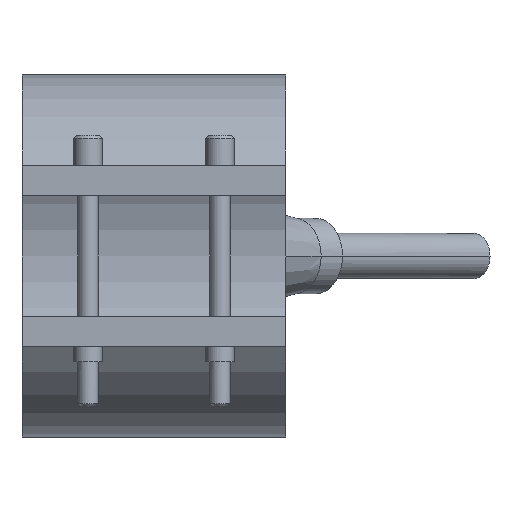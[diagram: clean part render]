
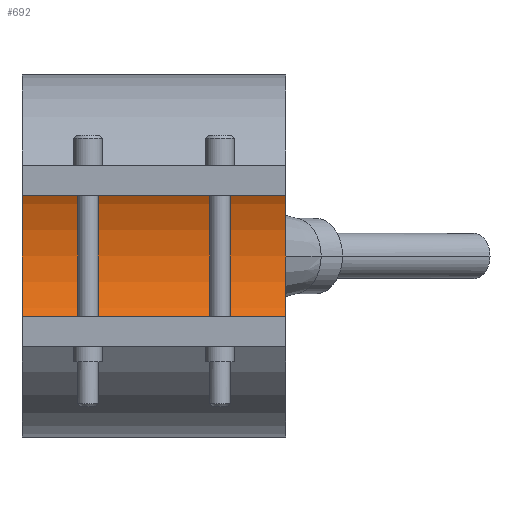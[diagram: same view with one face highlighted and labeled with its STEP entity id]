
A CAD part, front view. The second image highlights one B-rep face of the part: STEP entity #692.
In plain terms, the highlighted cylindrical face has radius 20 mm (diameter 40 mm), a partial arc.
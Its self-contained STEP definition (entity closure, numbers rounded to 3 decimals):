
#362=CARTESIAN_POINT('Vertex',(17.5,0.,20.)) ;
#367=CARTESIAN_POINT('Axis2P3D Location',(17.5,0.,0.)) ;
#371=CARTESIAN_POINT('Vertex',(17.5,0.,-20.)) ;
#478=CARTESIAN_POINT('Vertex',(-17.5,0.,-20.)) ;
#481=CARTESIAN_POINT('Axis2P3D Location',(-17.5,0.,0.)) ;
#485=CARTESIAN_POINT('Vertex',(-17.5,0.,20.)) ;
#664=CARTESIAN_POINT('Line Origine',(17.5,0.,20.)) ;
#676=CARTESIAN_POINT('Axis2P3D Location',(17.5,0.,0.)) ;
#681=CARTESIAN_POINT('Line Origine',(17.5,0.,-20.)) ;
#368=DIRECTION('Axis2P3D Direction',(1.,0.,0.)) ;
#482=DIRECTION('Axis2P3D Direction',(1.,0.,0.)) ;
#665=DIRECTION('Vector Direction',(1.,0.,0.)) ;
#677=DIRECTION('Axis2P3D Direction',(1.,0.,-0.)) ;
#678=DIRECTION('Axis2P3D XDirection',(0.,0.,-1.)) ;
#682=DIRECTION('Vector Direction',(1.,0.,0.)) ;
#369=AXIS2_PLACEMENT_3D('Circle Axis2P3D',#367,#368,$) ;
#483=AXIS2_PLACEMENT_3D('Circle Axis2P3D',#481,#482,$) ;
#679=AXIS2_PLACEMENT_3D('Cylinder Axis2P3D',#676,#677,#678) ;
#687=ORIENTED_EDGE('',*,*,#373,.T.) ;
#688=ORIENTED_EDGE('',*,*,#668,.T.) ;
#689=ORIENTED_EDGE('',*,*,#487,.F.) ;
#690=ORIENTED_EDGE('',*,*,#685,.T.) ;
#666=VECTOR('Line Direction',#665,1.) ;
#683=VECTOR('Line Direction',#682,1.) ;
#692=ADVANCED_FACE('29040035',(#691),#680,.F.) ;
#370=CIRCLE('generated circle',#369,20.) ;
#484=CIRCLE('generated circle',#483,20.) ;
#680=CYLINDRICAL_SURFACE('generated cylinder',#679,20.) ;
#373=EDGE_CURVE('',#372,#363,#370,.T.) ;
#487=EDGE_CURVE('',#479,#486,#484,.T.) ;
#668=EDGE_CURVE('',#363,#486,#667,.F.) ;
#685=EDGE_CURVE('',#479,#372,#684,.T.) ;
#686=EDGE_LOOP('',(#687,#688,#689,#690)) ;
#691=FACE_OUTER_BOUND('',#686,.T.) ;
#667=LINE('Line',#664,#666) ;
#684=LINE('Line',#681,#683) ;
#363=VERTEX_POINT('',#362) ;
#372=VERTEX_POINT('',#371) ;
#479=VERTEX_POINT('',#478) ;
#486=VERTEX_POINT('',#485) ;
